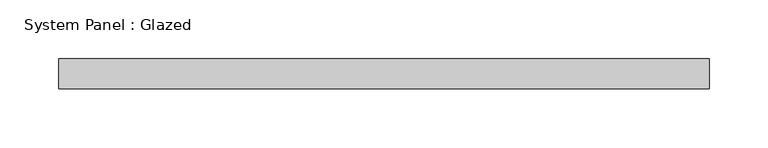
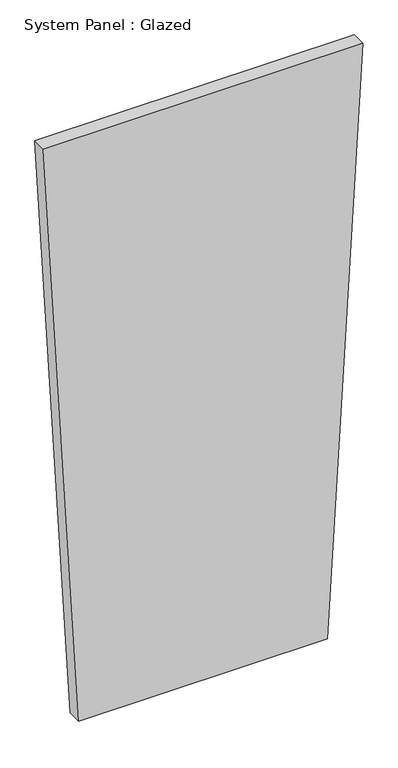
"""IFC4 building model written with IfcOpenShell, lengths in millimetres: plate geometry, System Panel : Glazed."""

from ifc_helpers import new_model, si_unit, frame, origin, place, context, project, spatial, polyline, outline, extrude, source, transform, mapped, element, save


def system_panel_glazed_bc27ae0c(model_context):
    return source(origin(), model_context, "Body", "SweptSolid", [
        extrude(outline(polyline([(0.0, -214.8046825), (0.0, 214.8046825), (1065.039601, 276.0655036), (1065.039601, -276.0655036), (0.0, -214.8046825)])), frame((0.0, -44.45, 0.0), z_axis=(0.0, 1.0, 0.0), x_axis=(0.0, 0.0, 1.0)), (0.0, 0.0, 1.0), 25.4),
    ])


if __name__ == "__main__":
    model = new_model("IFC4")
    model_context = context("Model", 3, world=origin())
    ifc_project = project(units=[si_unit("LENGTHUNIT", "METRE", prefix="MILLI")], contexts=[model_context])
    site = spatial("IfcSite", under=ifc_project)
    building = spatial("IfcBuilding", under=site)
    placement = place(None, origin())
    system_panel_glazed_shape = system_panel_glazed_bc27ae0c(model_context)
    element("IfcPlate", 1, ObjectType="System Panel : Glazed", at=placement, inside=building, context=model_context, shape_type="MappedRepresentation", body=[
        mapped(system_panel_glazed_shape, transform((0.0, 0.0, 0.0), x_axis=(1.0, 0.0, 0.0), y_axis=(0.0, 1.0, 0.0), z_axis=(0.0, 0.0, 1.0))),
    ])
    save(model, "model.ifc")
